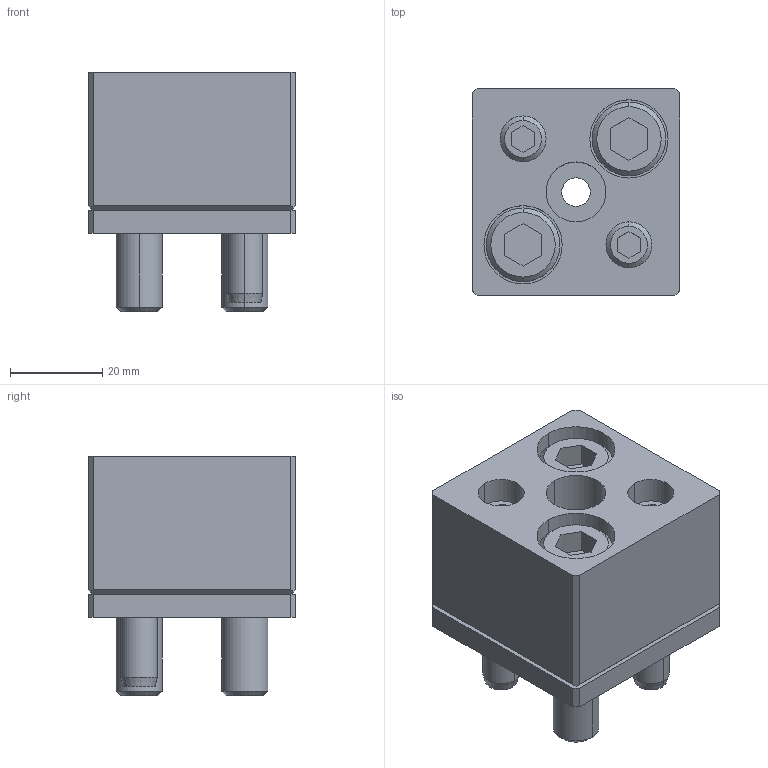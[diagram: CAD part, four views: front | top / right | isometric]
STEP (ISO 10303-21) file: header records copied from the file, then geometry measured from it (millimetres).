
FILE_DESCRIPTION(/* description */ (''),/* implementation_level */ '2;1');
FILE_NAME(/* name */ '3d_sr-ap13_03062_r00.stp',/* time_stamp */ '2011-01-10T14:10:00+09:00',/* author */ ('MISUMI'),/* organization */ (''),/* preprocessor_version */ 'ST-DEVELOPER v11',/* originating_system */ 'UGS - NX 5.0',/* authorisation */ '');
FILE_SCHEMA (('CONFIG_CONTROL_DESIGN'));
Length unit declared in the file: millimetre
Products named in the file (1): 3d_sr-ap13_03062_r00
Bounding box: 45 x 45 x 52 mm (x, y, z)
Volume: 65045.4 mm3; surface area: 26315.8 mm2
Topology: 8 solids, 8 shells, 159 faces, 358 edges, 230 vertices
Faces by surface type: plane 77, cylinder 56, cone 26
Entity records: 4588 total; most frequent: DIRECTION 812, CARTESIAN_POINT 790, ORIENTED_EDGE 716, EDGE_CURVE 358, AXIS2_PLACEMENT_3D 298, VERTEX_POINT 230, LINE 216, VECTOR 216
